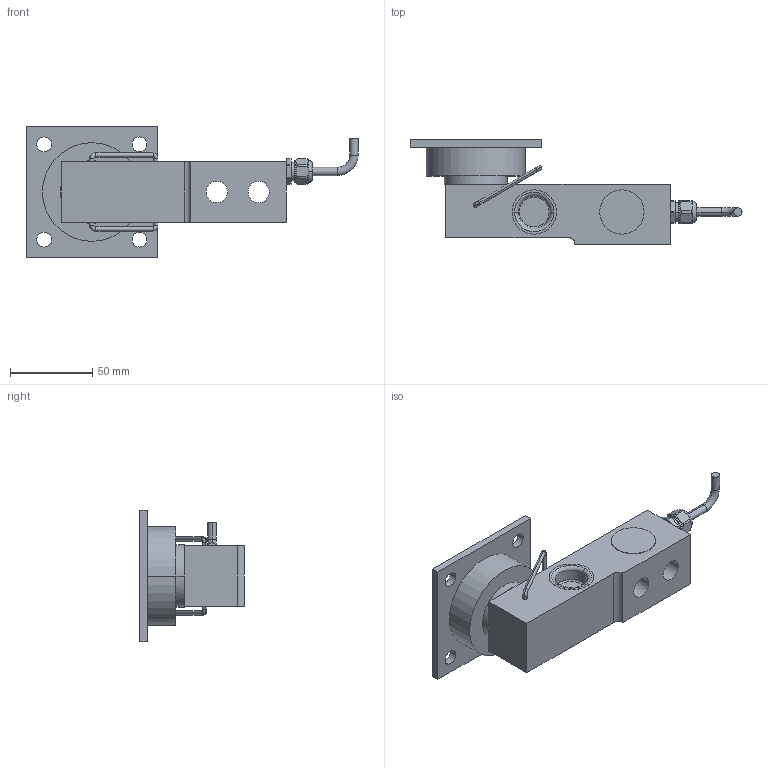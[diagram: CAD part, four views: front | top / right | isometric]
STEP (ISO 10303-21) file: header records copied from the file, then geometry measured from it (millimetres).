
FILE_DESCRIPTION((''),'2;1');
FILE_NAME('72208670-0745A-2200KG_SW00012','2014-07-28T',('wang-379'),(''),'PRO/ENGINEER BY PARAMETRIC TECHNOLOGY CORPORATION, 2013320','PRO/ENGINEER BY PARAMETRIC TECHNOLOGY CORPORATION, 2013320','');
FILE_SCHEMA(('CONFIG_CONTROL_DESIGN'));
Length unit declared in the file: millimetre
Products named in the file (1): 72208670-0745A-2200KG_SW00012
Bounding box: 202 x 63.49 x 80 mm (x, y, z)
Volume: 234312.5 mm3; surface area: 51062.8 mm2
Topology: 2 solids, 3 shells, 211 faces, 528 edges, 335 vertices
Faces by surface type: cylinder 83, plane 71, torus 36, cone 19, sphere 2
Entity records: 6728 total; most frequent: CARTESIAN_POINT 1435, DIRECTION 1196, ORIENTED_EDGE 1052, EDGE_CURVE 526, AXIS2_PLACEMENT_3D 500, VERTEX_POINT 335, CIRCLE 289, EDGE_LOOP 245
